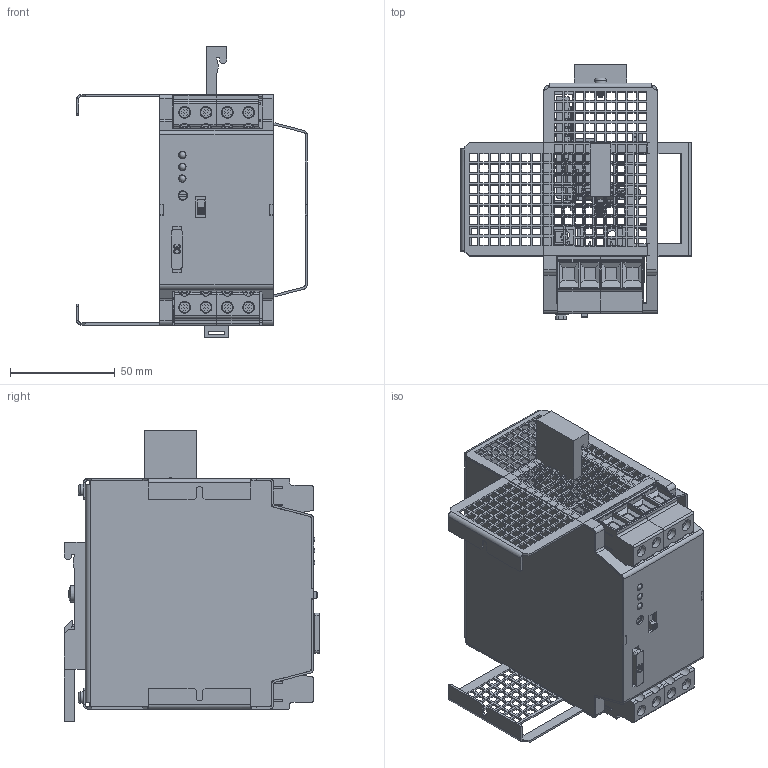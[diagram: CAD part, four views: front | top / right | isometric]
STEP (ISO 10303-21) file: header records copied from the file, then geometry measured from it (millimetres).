
FILE_DESCRIPTION( ( 'Unknown' ), '1' );
FILE_NAME( 'J:/DESBAKUP/3D DATA/TSP BCM/ASSEMBLIES/3D OUTPUT & IMAGES/TSP-BCM48.stp', 'Unknown', ( 'Unknown' ), ( 'Unknown' ), 'PSStep 13.0', 'Unknown', ' ' );
FILE_SCHEMA( ( 'AUTOMOTIVE_DESIGN { 1 0 10303 214 1 1 1 1 }' ) );
Length unit declared in the file: millimetre
Products named in the file (15): Assem1; 24300124-HOOK; 24300137-LATCH; 21500023-LED; 22200016-POT; 23300023-SWITCH; 24500067-SCREW; 24500045-SCREW; 23500373-CONNECTOR; 24500023-SCREW; 23500275-CONNECTOR; 24600185-Chassis; 24600231-HOOD; 23500367-CONNECTOR; 23800053-FUSE
Bounding box: 110 x 121.79 x 139 mm (x, y, z)
Volume: 174273.7 mm3; surface area: 211534.6 mm2
Topology: 35 solids, 35 shells, 5944 faces, 16051 edges, 10426 vertices
Faces by surface type: plane 4829, cylinder 733, cone 255, extrusion 46, torus 31, sphere 26, bspline 24
Full cylindrical faces by diameter (mm): 0.457 x7, 0.5 x14, 1.2 x20, 1.25 x20, 1.5 x20, 1.6 x18, 2 x2, 2.146 x4, 2.186 x18, 2.4 x8, 2.454 x39, 2.5 x4, 2.9 x12, 3 x40, 3.2 x12, 3.5 x6, 4 x32, 4.4 x2, 4.5 x2, 5 x10, 5.6 x16, 8 x2
Entity records: 110924 total; most frequent: CARTESIAN_POINT 16096, ORIENTED_EDGE 13370, DIRECTION 12425, EDGE_CURVE 6685, VECTOR 5883, LINE 5860, PRESENTATION_STYLE_ASSIGNMENT 4562, COLOUR_RGB 4562
